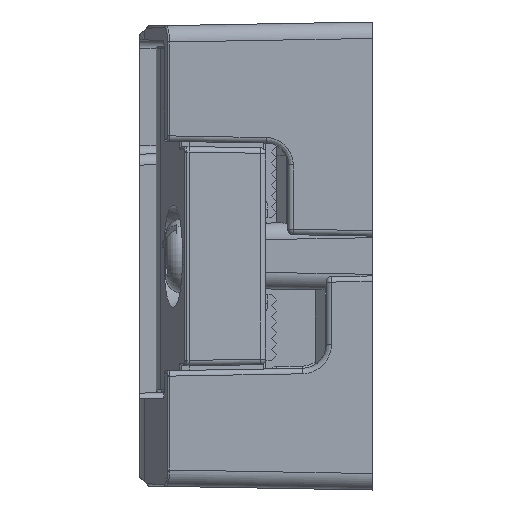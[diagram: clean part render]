
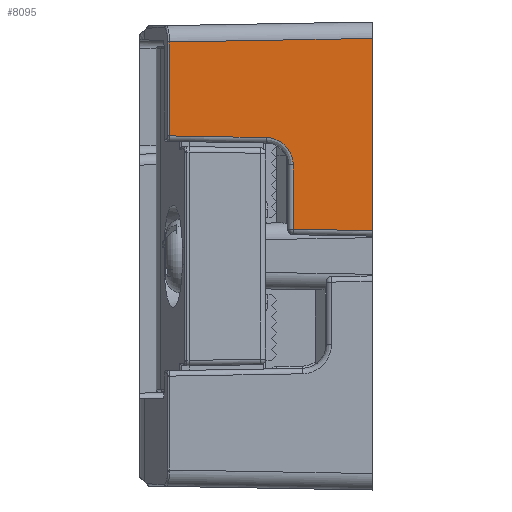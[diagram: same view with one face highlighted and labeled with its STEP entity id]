
A CAD part, left-side view. The second image highlights one B-rep face of the part: STEP entity #8095.
In plain terms, the highlighted planar face has unit normal (-1, 0.018, 0) as drawn and (1, 0.017, 0) by its records, which use the part's own axes.
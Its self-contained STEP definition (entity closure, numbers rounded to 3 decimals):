
#1084 = ORIENTED_EDGE ( 'NONE', *, *, #82324, .T. ) ;
#4027 = VECTOR ( 'NONE', #30472, 1000. ) ;
#4850 = VERTEX_POINT ( 'NONE', #94052 ) ;
#5058 = LINE ( 'NONE', #103170, #94554 ) ;
#6281 = DIRECTION ( 'NONE',  ( 0., 0., 1. ) ) ;
#8095 = ADVANCED_FACE ( 'NONE', ( #89133 ), #68760, .T. ) ;
#8172 = CARTESIAN_POINT ( 'NONE',  ( 64.986, 0.8, -19.836 ) ) ;
#12654 = EDGE_CURVE ( 'NONE', #125954, #36914, #47255, .T. ) ;
#13857 = VERTEX_POINT ( 'NONE', #62113 ) ;
#19749 = AXIS2_PLACEMENT_3D ( 'NONE', #86615, #79559, #107629 ) ;
#20825 = VECTOR ( 'NONE', #113257, 1000. ) ;
#25795 = ORIENTED_EDGE ( 'NONE', *, *, #78179, .T. ) ;
#27069 = DIRECTION ( 'NONE',  ( 0.017, -1., 0.017 ) ) ;
#27245 = ORIENTED_EDGE ( 'NONE', *, *, #56518, .T. ) ;
#30472 = DIRECTION ( 'NONE',  ( 0.017, -1., 0.017 ) ) ;
#32350 = CARTESIAN_POINT ( 'NONE',  ( 64.817, 10.456, -10.798 ) ) ;
#35632 = LINE ( 'NONE', #95562, #58111 ) ;
#36914 = VERTEX_POINT ( 'NONE', #82708 ) ;
#37000 = EDGE_CURVE ( 'NONE', #49402, #13857, #74383, .T. ) ;
#38021 = VERTEX_POINT ( 'NONE', #125987 ) ;
#42845 = CARTESIAN_POINT ( 'NONE',  ( 64.817, 10.465, -10.799 ) ) ;
#47255 =( BOUNDED_CURVE ( )  B_SPLINE_CURVE ( 3, ( #95765, #86169, #67040, #64522 ),
 .UNSPECIFIED., .F., .F. ) 
 B_SPLINE_CURVE_WITH_KNOTS ( ( 4, 4 ),
 ( 1.588, 3.142 ),
 .UNSPECIFIED. ) 
 CURVE ( )  GEOMETRIC_REPRESENTATION_ITEM ( )  RATIONAL_B_SPLINE_CURVE ( ( 1., 0.809, 0.809, 1. ) ) 
 REPRESENTATION_ITEM ( '' )  );
#49402 = VERTEX_POINT ( 'NONE', #8172 ) ;
#50052 = LINE ( 'NONE', #99167, #51728 ) ;
#51728 = VECTOR ( 'NONE', #80660, 1000. ) ;
#52512 = EDGE_CURVE ( 'NONE', #4850, #49402, #35632, .T. ) ;
#52729 = CARTESIAN_POINT ( 'NONE',  ( 64.616, 21.974, -19.467 ) ) ;
#54119 = ORIENTED_EDGE ( 'NONE', *, *, #112611, .T. ) ;
#56518 = EDGE_CURVE ( 'NONE', #58737, #125954, #89753, .T. ) ;
#58111 = VECTOR ( 'NONE', #114013, 1000. ) ;
#58737 = VERTEX_POINT ( 'NONE', #119180 ) ;
#62113 = CARTESIAN_POINT ( 'NONE',  ( 64.663, 19.284, -19.514 ) ) ;
#64522 = CARTESIAN_POINT ( 'NONE',  ( 64.86, 8.009, -8.299 ) ) ;
#67040 = CARTESIAN_POINT ( 'NONE',  ( 64.86, 8.009, -9.743 ) ) ;
#68760 = PLANE ( 'NONE',  #19749 ) ;
#74383 = LINE ( 'NONE', #52729, #20825 ) ;
#78179 = EDGE_CURVE ( 'NONE', #36914, #38021, #50052, .T. ) ;
#79559 = DIRECTION ( 'NONE',  ( 1., 0.017, 0. ) ) ;
#80660 = DIRECTION ( 'NONE',  ( 0., 0., 1. ) ) ;
#80899 = EDGE_LOOP ( 'NONE', ( #1084, #96247, #83660, #54119, #27245, #91636, #25795 ) ) ;
#82324 = EDGE_CURVE ( 'NONE', #38021, #4850, #93399, .T. ) ;
#82708 = CARTESIAN_POINT ( 'NONE',  ( 64.86, 8.009, -8.299 ) ) ;
#83660 = ORIENTED_EDGE ( 'NONE', *, *, #37000, .T. ) ;
#86169 = CARTESIAN_POINT ( 'NONE',  ( 64.843, 9.021, -10.773 ) ) ;
#86615 = CARTESIAN_POINT ( 'NONE',  ( 65., 0., 21.35 ) ) ;
#89133 = FACE_OUTER_BOUND ( 'NONE', #80899, .T. ) ;
#89753 = LINE ( 'NONE', #32350, #4027 ) ;
#91636 = ORIENTED_EDGE ( 'NONE', *, *, #12654, .T. ) ;
#93399 = LINE ( 'NONE', #94663, #117360 ) ;
#94052 = CARTESIAN_POINT ( 'NONE',  ( 64.986, 0.8, -2.314 ) ) ;
#94554 = VECTOR ( 'NONE', #6281, 1000. ) ;
#94663 = CARTESIAN_POINT ( 'NONE',  ( 65., -0.009, -2.3 ) ) ;
#95562 = CARTESIAN_POINT ( 'NONE',  ( 64.986, 0.8, 21.35 ) ) ;
#95765 = CARTESIAN_POINT ( 'NONE',  ( 64.817, 10.465, -10.799 ) ) ;
#96247 = ORIENTED_EDGE ( 'NONE', *, *, #52512, .T. ) ;
#99167 = CARTESIAN_POINT ( 'NONE',  ( 64.86, 8.009, 21.35 ) ) ;
#103170 = CARTESIAN_POINT ( 'NONE',  ( 64.663, 19.284, -10.955 ) ) ;
#107629 = DIRECTION ( 'NONE',  ( -0.017, 1., 0. ) ) ;
#112611 = EDGE_CURVE ( 'NONE', #13857, #58737, #5058, .T. ) ;
#113257 = DIRECTION ( 'NONE',  ( -0.017, 1., 0.017 ) ) ;
#114013 = DIRECTION ( 'NONE',  ( 0., 0., -1. ) ) ;
#117360 = VECTOR ( 'NONE', #27069, 1000. ) ;
#119180 = CARTESIAN_POINT ( 'NONE',  ( 64.663, 19.284, -10.953 ) ) ;
#125954 = VERTEX_POINT ( 'NONE', #42845 ) ;
#125987 = CARTESIAN_POINT ( 'NONE',  ( 64.86, 8.009, -2.44 ) ) ;
